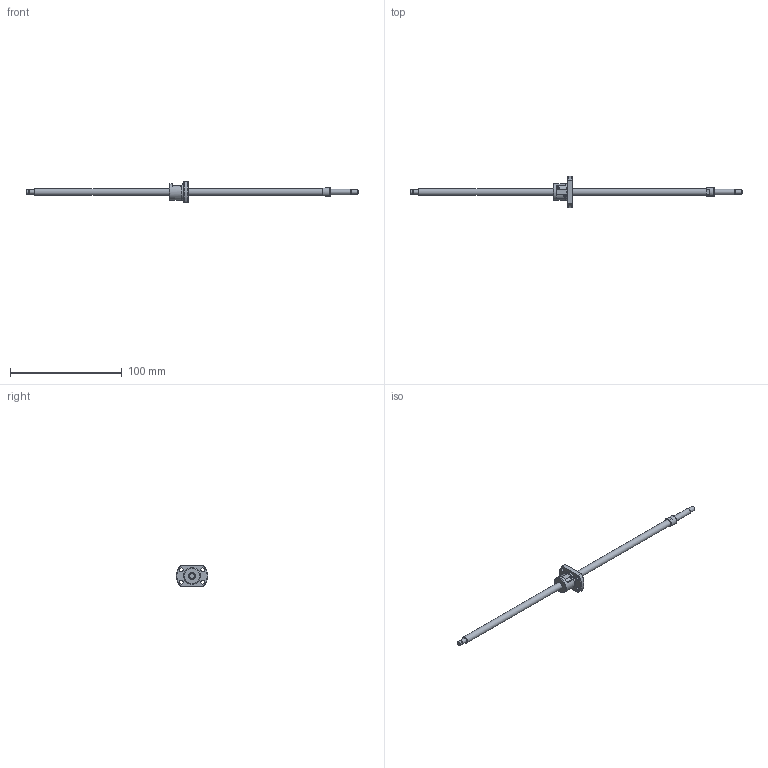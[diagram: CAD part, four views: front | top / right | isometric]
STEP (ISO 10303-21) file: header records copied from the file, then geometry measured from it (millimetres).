
FILE_DESCRIPTION(/* description */ ('STEP AP214'),/* implementation_level */ '2;1');
FILE_NAME(/* name */ 'SRT0602-253R297C7B0X(120Processing)',/* time_stamp */ '2026-08-04T17:55:37+02:00',/* author */ ('License CC BY-ND 4.0'),/* organization */ ('CADENAS'),/* preprocessor_version */ 'ST-DEVELOPER v20',/* originating_system */ 'PARTsolutions',/* authorisation */ ' ');
FILE_SCHEMA (('AUTOMOTIVE_DESIGN {1 0 10303 214 3 1 1}'));
Length unit declared in the file: millimetre
Products named in the file (3): SRT0602-253R297C7B0X(120Processing); SRT0602-253R335BCt7Processing18Shaft; SRT0602Nut
Assembly tree (2 placements, depth 2):
  SRT0602-253R297C7B0X(120Processing)
    SRT0602-253R335BCt7Processing18Shaft
    SRT0602Nut
Bounding box: 297 x 27.9 x 19 mm (x, y, z)
Volume: 11603.5 mm3; surface area: 7868.6 mm2
Topology: 2 solids, 2 shells, 72 faces, 166 edges, 107 vertices
Faces by surface type: plane 35, cylinder 20, cone 16, torus 1
Full cylindrical faces by diameter (mm): 2 x2, 3.4 x4, 3.7 x1, 4 x3, 5 x1, 6 x2, 8 x1, 14.5 x1, 15 x1
Entity records: 1965 total; most frequent: CARTESIAN_POINT 377, DIRECTION 330, ORIENTED_EDGE 264, AXIS2_PLACEMENT_3D 143, EDGE_CURVE 132, EDGE_LOOP 114, FACE_BOUND 114, VERTEX_POINT 96
